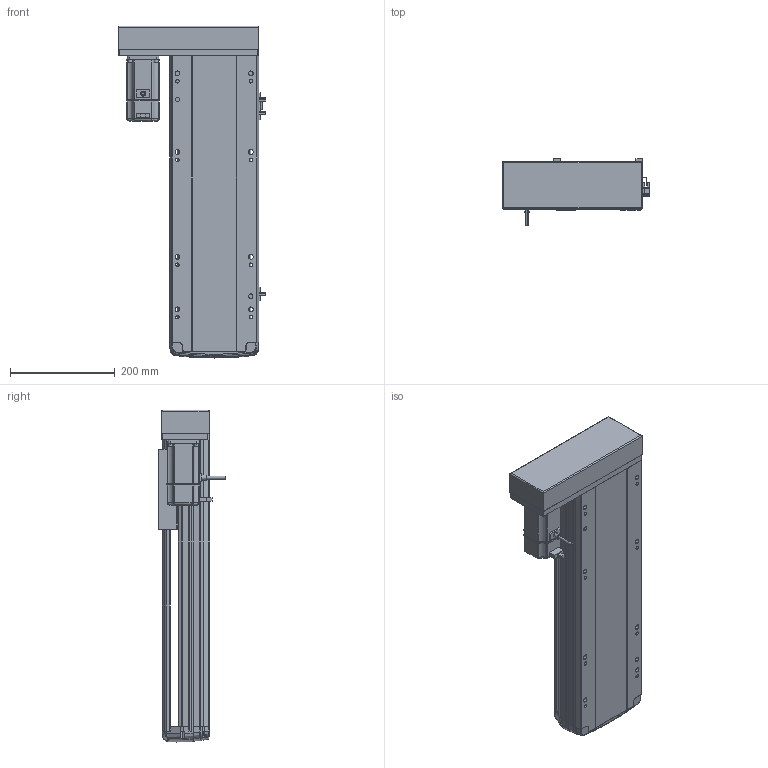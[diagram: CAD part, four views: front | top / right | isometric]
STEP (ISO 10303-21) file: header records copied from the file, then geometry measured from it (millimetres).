
FILE_DESCRIPTION (( 'STEP AP214' ), '1' );
FILE_NAME ('RTH17-XX-350-R-M40-C4.STEP', '2025-10-24T08:54:05', ( '' ), ( '' ), 'SwSTEP 2.0', 'SolidWorks 2018', '' );
FILE_SCHEMA (( 'AUTOMOTIVE_DESIGN' ));
Length unit declared in the file: millimetre
Products named in the file (10): N_RTH17-GY-001P^RTH17-XX-XX-R-M40-C4（方程式）; N_RTH17-E-004丝杆螺母连接座^RTH17-XX-XX-R-M40-C4（方程式）; N_RTH-BL-012 感应片(外置)^RTH17-XX-XX-R-M40-C4（方程式）; N_OMRON EE-SX672 換覜ん^RTH17-XX-XX-R-M40-C4ㄗ源最宒ㄘ; N_RTH17-L-018盖子^RTH17-XX-XX-R-M40-C4（方程式）; N_M40^RTH17-XX-XX-R-M40-C4（方程式）; N_RTH17-M-007上盖^RTH17-XX-XX-R-M40-C4（方程式）; N_RTH17-M-011底座^RTH17-XX-XX-R-M40-C4（方程式）; RTH17-XX-350-R-M40-C4; N_RTH17-L-008-P40电机安装板左转折^RTH17-XX-XX-R-M40-C4（方程式）
Assembly tree (11 placements, depth 2):
  RTH17-XX-350-R-M40-C4
    N_RTH17-M-011底座^RTH17-XX-XX-R-M40-C4（方程式）
    N_RTH17-M-007上盖^RTH17-XX-XX-R-M40-C4（方程式）
    N_M40^RTH17-XX-XX-R-M40-C4（方程式）
    N_OMRON EE-SX672 換覜ん^RTH17-XX-XX-R-M40-C4ㄗ源最宒ㄘ  x3
    N_RTH-BL-012 感应片(外置)^RTH17-XX-XX-R-M40-C4（方程式）
    N_RTH17-L-008-P40电机安装板左转折^RTH17-XX-XX-R-M40-C4（方程式）
    N_RTH17-L-018盖子^RTH17-XX-XX-R-M40-C4（方程式）
    N_RTH17-E-004丝杆螺母连接座^RTH17-XX-XX-R-M40-C4（方程式）
    N_RTH17-GY-001P^RTH17-XX-XX-R-M40-C4（方程式）
Bounding box: 280.5 x 127 x 633.07 mm (x, y, z)
Volume: 6357734.7 mm3; surface area: 828739.5 mm2
Topology: 13 solids, 15 shells, 1631 faces, 4521 edges, 2946 vertices
Faces by surface type: plane 831, cylinder 433, bspline 330, cone 28, torus 9
Entity records: 47114 total; most frequent: CARTESIAN_POINT 19127, ORIENTED_EDGE 6066, DIRECTION 4999, EDGE_CURVE 3037, VERTEX_POINT 1982, LINE 1729, VECTOR 1729, AXIS2_PLACEMENT_3D 1635
